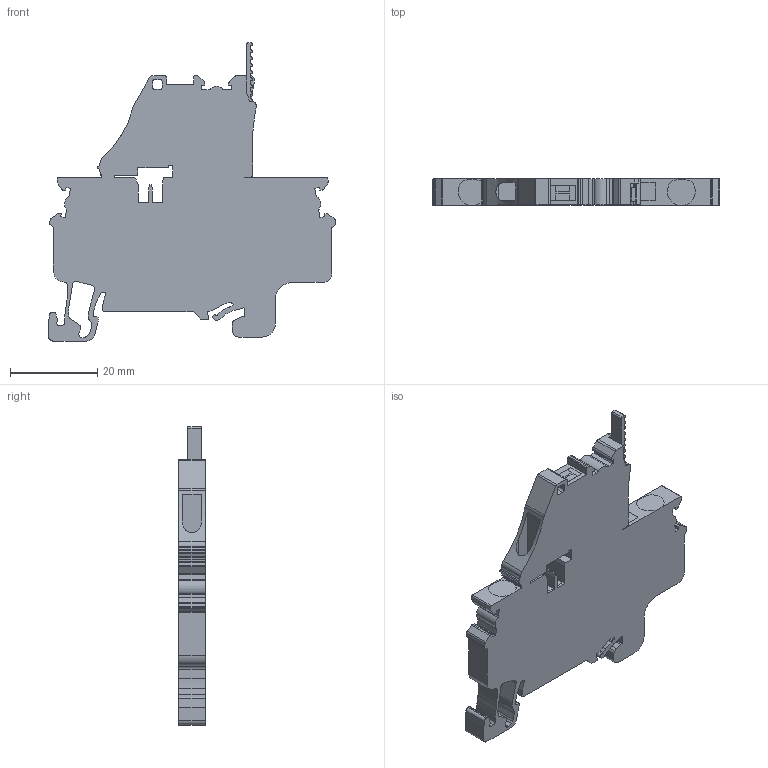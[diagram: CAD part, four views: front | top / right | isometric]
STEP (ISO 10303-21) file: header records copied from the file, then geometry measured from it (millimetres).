
FILE_DESCRIPTION(/* description */ ('Unknown'),/* implementation_level */ '2;1');
FILE_NAME(/* name */ 'CXF4L',/* time_stamp */ '2019-10-15T17:33:38+05:00',/* author */ ('Unknown'),/* organization */ ('Unknown'),/* preprocessor_version */ 'ST-DEVELOPER v16.7',/* originating_system */ 'DEX',/* authorisation */ $);
FILE_SCHEMA (('AUTOMOTIVE_DESIGN {1 0 10303 214 3 1 1}'));
Length unit declared in the file: millimetre
Products named in the file (1): CXF4L
Bounding box: 65.7 x 6 x 68.2 mm (x, y, z)
Volume: 14663.8 mm3; surface area: 7594.9 mm2
Topology: 1 solids, 1 shells, 362 faces, 1077 edges, 717 vertices
Faces by surface type: plane 193, cylinder 167, bspline 2
Entity records: 14996 total; most frequent: CARTESIAN_POINT 2388, ORIENTED_EDGE 2154, DIRECTION 2126, EDGE_CURVE 1077, LINE 734, VECTOR 734, VERTEX_POINT 717, AXIS2_PLACEMENT_3D 696
